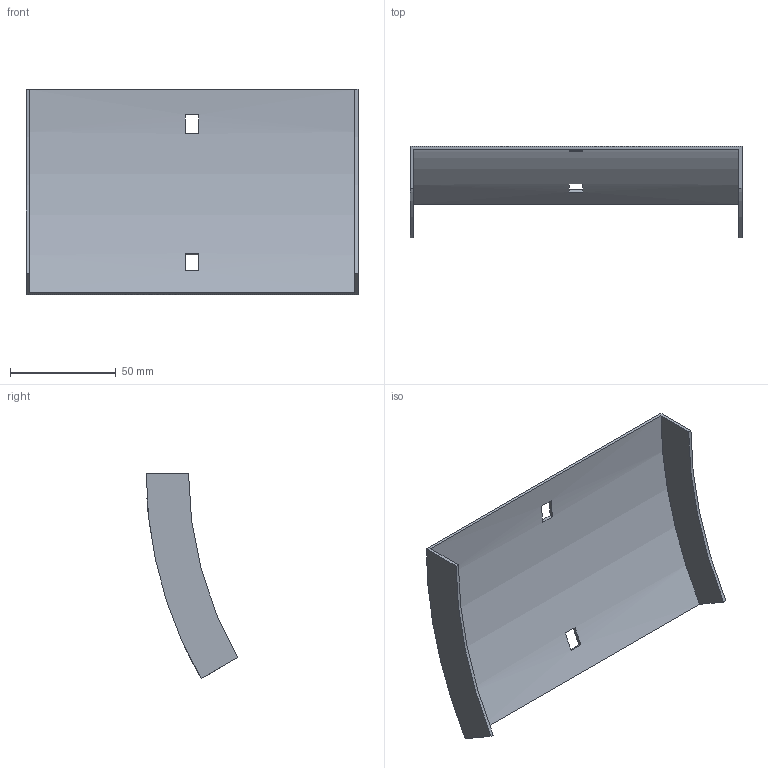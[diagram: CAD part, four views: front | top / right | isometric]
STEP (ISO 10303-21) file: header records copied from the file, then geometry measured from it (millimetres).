
FILE_DESCRIPTION (( 'STEP AP214' ), '1' );
FILE_NAME ('35N1I150.step', '2025-02-21T09:13:26', ( '' ), ( '' ), 'SwSTEP 2.0', 'SolidWorks 2023', '' );
FILE_SCHEMA (( 'AUTOMOTIVE_DESIGN' ));
Length unit declared in the file: millimetre
Products named in the file (1): 35N1I150
Bounding box: 157 x 43.31 x 97 mm (x, y, z)
Volume: 28978.2 mm3; surface area: 39587.5 mm2
Topology: 1 solids, 1 shells, 18 faces, 48 edges, 32 vertices
Faces by surface type: plane 14, cylinder 4
Entity records: 599 total; most frequent: DIRECTION 102, CARTESIAN_POINT 99, ORIENTED_EDGE 96, EDGE_CURVE 48, AXIS2_PLACEMENT_3D 35, VECTOR 32, VERTEX_POINT 32, LINE 32
